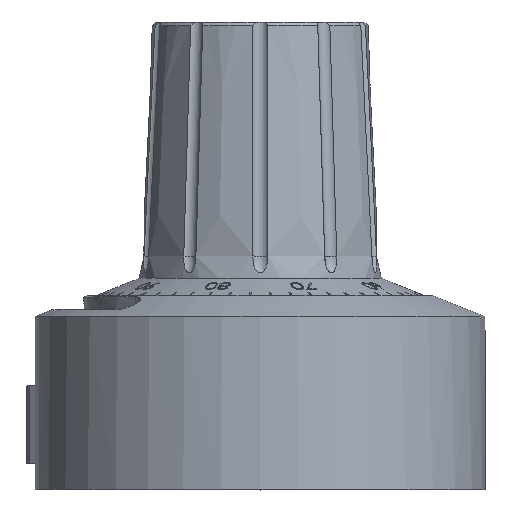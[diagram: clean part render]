
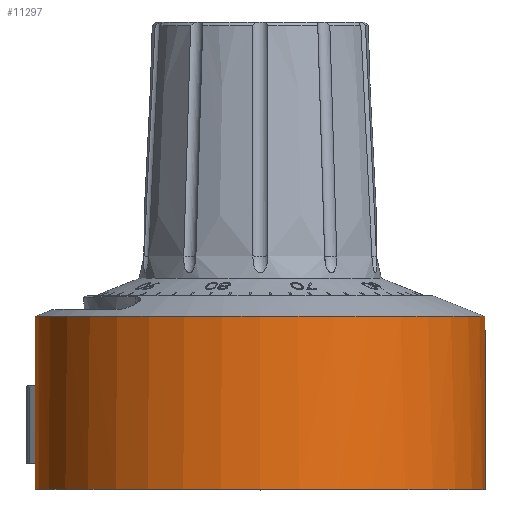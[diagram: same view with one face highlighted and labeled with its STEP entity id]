
A CAD part, top view. The second image highlights one B-rep face of the part: STEP entity #11297.
In plain terms, the highlighted cylindrical face has radius 13 mm (diameter 26 mm), a full revolution.
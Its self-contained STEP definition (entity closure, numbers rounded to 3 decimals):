
#808 = EDGE_LOOP ( 'NONE', ( #5002 ) ) ;
#961 = AXIS2_PLACEMENT_3D ( 'NONE', #23194, #10891, #12649 ) ;
#1006 = DIRECTION ( 'NONE',  ( 0., 0., -1. ) ) ;
#1217 = VECTOR ( 'NONE', #13602, 1000. ) ;
#1263 = LINE ( 'NONE', #26098, #25921 ) ;
#1724 = EDGE_CURVE ( 'NONE', #10834, #26603, #12440, .T. ) ;
#2067 = AXIS2_PLACEMENT_3D ( 'NONE', #15559, #11140, #5148 ) ;
#2505 = CARTESIAN_POINT ( 'NONE',  ( -11.258, -10.8, -6.5 ) ) ;
#3021 = EDGE_CURVE ( 'NONE', #17367, #7170, #1263, .T. ) ;
#3084 = CIRCLE ( 'NONE', #7654, 13. ) ;
#3856 = EDGE_LOOP ( 'NONE', ( #15300, #24127, #23068, #8497 ) ) ;
#5002 = ORIENTED_EDGE ( 'NONE', *, *, #14535, .F. ) ;
#5148 = DIRECTION ( 'NONE',  ( 0., 0., 1. ) ) ;
#5258 = CARTESIAN_POINT ( 'NONE',  ( 0., -0.8, 0. ) ) ;
#5339 = CARTESIAN_POINT ( 'NONE',  ( -11.258, -5.8, -6.5 ) ) ;
#6767 = CARTESIAN_POINT ( 'NONE',  ( -11.258, -5.8, -6.5 ) ) ;
#6962 = AXIS2_PLACEMENT_3D ( 'NONE', #5258, #11608, #7373 ) ;
#7170 = VERTEX_POINT ( 'NONE', #18722 ) ;
#7373 = DIRECTION ( 'NONE',  ( 0., 0., 1. ) ) ;
#7482 = DIRECTION ( 'NONE',  ( 0., -1., 0. ) ) ;
#7654 = AXIS2_PLACEMENT_3D ( 'NONE', #20056, #11630, #1006 ) ;
#8069 = CIRCLE ( 'NONE', #6962, 13. ) ;
#8497 = ORIENTED_EDGE ( 'NONE', *, *, #1724, .T. ) ;
#8698 = EDGE_CURVE ( 'NONE', #26603, #7170, #18201, .T. ) ;
#9255 = FACE_OUTER_BOUND ( 'NONE', #3856, .T. ) ;
#10834 = VERTEX_POINT ( 'NONE', #6767 ) ;
#10891 = DIRECTION ( 'NONE',  ( 0., 1., 0. ) ) ;
#11140 = DIRECTION ( 'NONE',  ( 0., 1., 0. ) ) ;
#11297 = ADVANCED_FACE ( 'NONE', ( #26680, #9255 ), #16211, .T. ) ;
#11608 = DIRECTION ( 'NONE',  ( 0., 1., 0. ) ) ;
#11630 = DIRECTION ( 'NONE',  ( 0., -1., 0. ) ) ;
#12440 = LINE ( 'NONE', #5339, #1217 ) ;
#12649 = DIRECTION ( 'NONE',  ( 0., 0., 1. ) ) ;
#13602 = DIRECTION ( 'NONE',  ( 0., -1., 0. ) ) ;
#14535 = EDGE_CURVE ( 'NONE', #22496, #22496, #8069, .T. ) ;
#15300 = ORIENTED_EDGE ( 'NONE', *, *, #8698, .T. ) ;
#15559 = CARTESIAN_POINT ( 'NONE',  ( 0., 15.466, 0. ) ) ;
#15626 = CARTESIAN_POINT ( 'NONE',  ( -6.5, -5.8, -11.258 ) ) ;
#16211 = CYLINDRICAL_SURFACE ( 'NONE', #2067, 13. ) ;
#17367 = VERTEX_POINT ( 'NONE', #15626 ) ;
#18201 = CIRCLE ( 'NONE', #961, 13. ) ;
#18722 = CARTESIAN_POINT ( 'NONE',  ( -6.5, -10.8, -11.258 ) ) ;
#20056 = CARTESIAN_POINT ( 'NONE',  ( 0., -5.8, 0. ) ) ;
#22496 = VERTEX_POINT ( 'NONE', #24266 ) ;
#23068 = ORIENTED_EDGE ( 'NONE', *, *, #26866, .F. ) ;
#23194 = CARTESIAN_POINT ( 'NONE',  ( 0., -10.8, 0. ) ) ;
#24127 = ORIENTED_EDGE ( 'NONE', *, *, #3021, .F. ) ;
#24266 = CARTESIAN_POINT ( 'NONE',  ( 0., -0.8, 13. ) ) ;
#25921 = VECTOR ( 'NONE', #7482, 1000. ) ;
#26098 = CARTESIAN_POINT ( 'NONE',  ( -6.5, -5.8, -11.258 ) ) ;
#26603 = VERTEX_POINT ( 'NONE', #2505 ) ;
#26680 = FACE_OUTER_BOUND ( 'NONE', #808, .T. ) ;
#26866 = EDGE_CURVE ( 'NONE', #10834, #17367, #3084, .T. ) ;
